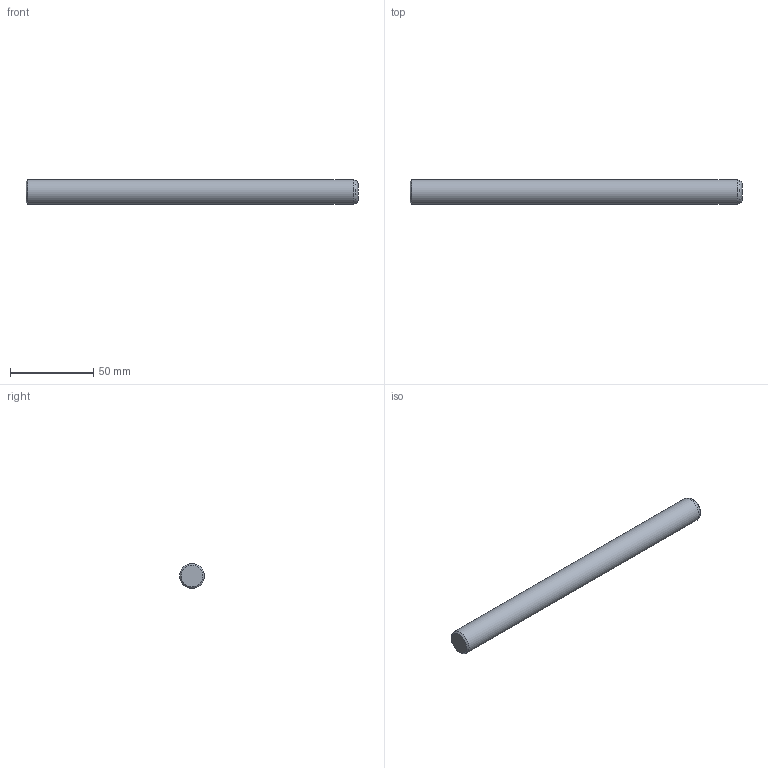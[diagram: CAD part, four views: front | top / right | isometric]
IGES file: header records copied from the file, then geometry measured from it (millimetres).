
Global section: file name: CIS15200.ipt; native system: Autodesk Inventor 2021; preprocessor: unknown; author: SM; date: 20211220.124137; units: millimetre
Bounding box: 200 x 15 x 15 mm (x, y, z)
Volume: 35237.6 mm3; surface area: 9686.3 mm2
Topology: 1 solids, 1 shells, 6 faces, 11 edges, 7 vertices
Faces by surface type: cone 2, plane 2, revolution 1, cylinder 1
Full cylindrical faces by diameter (mm): 15 x1
